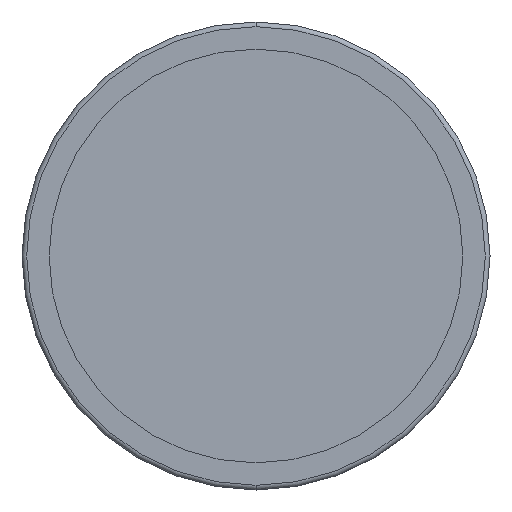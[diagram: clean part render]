
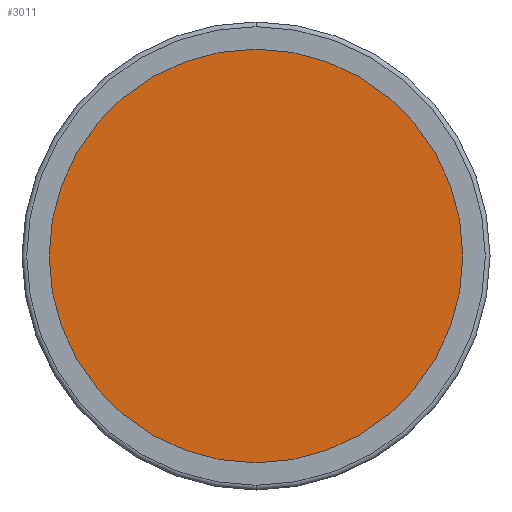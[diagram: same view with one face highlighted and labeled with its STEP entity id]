
A CAD part, front view. The second image highlights one B-rep face of the part: STEP entity #3011.
In plain terms, the highlighted planar face has unit normal (0, -1, 0).
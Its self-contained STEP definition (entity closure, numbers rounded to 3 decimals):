
#62 = DIRECTION ( 'NONE',  ( 0., 1., 0. ) ) ;
#80 = CARTESIAN_POINT ( 'NONE',  ( -43.75, -3., 0. ) ) ;
#140 = AXIS2_PLACEMENT_3D ( 'NONE', #1562, #2562, #1015 ) ;
#155 = AXIS2_PLACEMENT_3D ( 'NONE', #80, #355, #1103 ) ;
#198 = ORIENTED_EDGE ( 'NONE', *, *, #2736, .F. ) ;
#229 = VERTEX_POINT ( 'NONE', #2636 ) ;
#355 = DIRECTION ( 'NONE',  ( 0., -1., 0. ) ) ;
#429 = EDGE_CURVE ( 'NONE', #2758, #229, #2099, .T. ) ;
#435 = CARTESIAN_POINT ( 'NONE',  ( 0., -3., 0. ) ) ;
#1015 = DIRECTION ( 'NONE',  ( 0., 0., 1. ) ) ;
#1103 = DIRECTION ( 'NONE',  ( 0., 0., -1. ) ) ;
#1375 = EDGE_LOOP ( 'NONE', ( #2446, #198 ) ) ;
#1511 = CARTESIAN_POINT ( 'NONE',  ( 0., -3., 43.75 ) ) ;
#1562 = CARTESIAN_POINT ( 'NONE',  ( 0., -3., 0. ) ) ;
#2057 = FACE_OUTER_BOUND ( 'NONE', #1375, .T. ) ;
#2099 = CIRCLE ( 'NONE', #3083, 43.75 ) ;
#2284 = DIRECTION ( 'NONE',  ( 0., 0., 1. ) ) ;
#2446 = ORIENTED_EDGE ( 'NONE', *, *, #429, .F. ) ;
#2562 = DIRECTION ( 'NONE',  ( 0., 1., 0. ) ) ;
#2587 = PLANE ( 'NONE',  #155 ) ;
#2636 = CARTESIAN_POINT ( 'NONE',  ( 0., -3., -43.75 ) ) ;
#2736 = EDGE_CURVE ( 'NONE', #229, #2758, #3038, .T. ) ;
#2758 = VERTEX_POINT ( 'NONE', #1511 ) ;
#3011 = ADVANCED_FACE ( 'NONE', ( #2057 ), #2587, .T. ) ;
#3038 = CIRCLE ( 'NONE', #140, 43.75 ) ;
#3083 = AXIS2_PLACEMENT_3D ( 'NONE', #435, #62, #2284 ) ;
